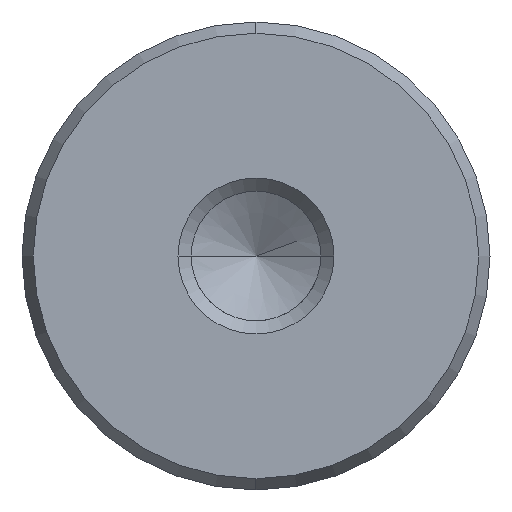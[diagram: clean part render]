
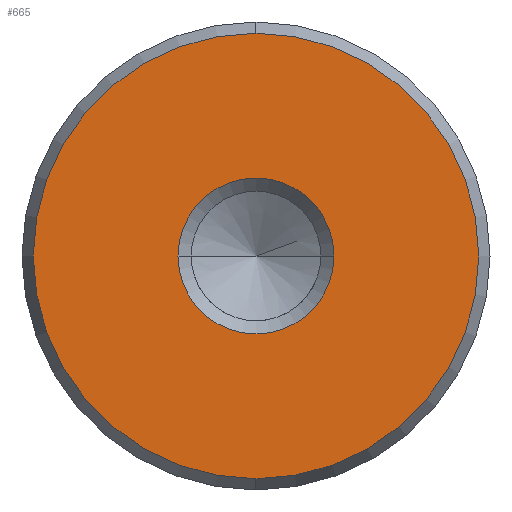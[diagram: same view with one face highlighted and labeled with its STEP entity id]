
A CAD part, left-side view. The second image highlights one B-rep face of the part: STEP entity #665.
In plain terms, the highlighted planar face has unit normal (-1, 0, 0).
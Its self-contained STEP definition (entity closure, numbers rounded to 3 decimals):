
#579=CARTESIAN_POINT('Vertex',(0.,0.,-11.423)) ;
#582=CARTESIAN_POINT('Axis2P3D Location',(0.,0.,0.)) ;
#586=CARTESIAN_POINT('Vertex',(0.,11.423,0.)) ;
#589=CARTESIAN_POINT('Axis2P3D Location',(0.,0.,0.)) ;
#593=CARTESIAN_POINT('Vertex',(0.,0.,11.423)) ;
#615=CARTESIAN_POINT('Axis2P3D Location',(0.,0.,0.)) ;
#619=CARTESIAN_POINT('Vertex',(0.,-11.423,0.)) ;
#622=CARTESIAN_POINT('Axis2P3D Location',(0.,0.,0.)) ;
#636=CARTESIAN_POINT('Axis2P3D Location',(0.,0.,0.)) ;
#647=CARTESIAN_POINT('Axis2P3D Location',(0.,0.,0.)) ;
#651=CARTESIAN_POINT('Vertex',(0.,4.,0.)) ;
#653=CARTESIAN_POINT('Vertex',(0.,-4.,0.)) ;
#656=CARTESIAN_POINT('Axis2P3D Location',(0.,0.,0.)) ;
#583=DIRECTION('Axis2P3D Direction',(1.,0.,-0.)) ;
#590=DIRECTION('Axis2P3D Direction',(1.,0.,-0.)) ;
#616=DIRECTION('Axis2P3D Direction',(1.,0.,-0.)) ;
#623=DIRECTION('Axis2P3D Direction',(1.,0.,-0.)) ;
#637=DIRECTION('Axis2P3D Direction',(1.,0.,-0.)) ;
#638=DIRECTION('Axis2P3D XDirection',(-0.,0.,-1.)) ;
#648=DIRECTION('Axis2P3D Direction',(1.,0.,-0.)) ;
#657=DIRECTION('Axis2P3D Direction',(1.,0.,-0.)) ;
#584=AXIS2_PLACEMENT_3D('Circle Axis2P3D',#582,#583,$) ;
#591=AXIS2_PLACEMENT_3D('Circle Axis2P3D',#589,#590,$) ;
#617=AXIS2_PLACEMENT_3D('Circle Axis2P3D',#615,#616,$) ;
#624=AXIS2_PLACEMENT_3D('Circle Axis2P3D',#622,#623,$) ;
#639=AXIS2_PLACEMENT_3D('Plane Axis2P3D',#636,#637,#638) ;
#649=AXIS2_PLACEMENT_3D('Circle Axis2P3D',#647,#648,$) ;
#658=AXIS2_PLACEMENT_3D('Circle Axis2P3D',#656,#657,$) ;
#642=ORIENTED_EDGE('',*,*,#588,.F.) ;
#643=ORIENTED_EDGE('',*,*,#626,.F.) ;
#644=ORIENTED_EDGE('',*,*,#621,.F.) ;
#645=ORIENTED_EDGE('',*,*,#595,.F.) ;
#662=ORIENTED_EDGE('',*,*,#655,.T.) ;
#663=ORIENTED_EDGE('',*,*,#660,.T.) ;
#664=FACE_BOUND('',#661,.T.) ;
#665=ADVANCED_FACE('720-24x500',(#646,#664),#640,.F.) ;
#585=CIRCLE('generated circle',#584,11.423) ;
#592=CIRCLE('generated circle',#591,11.423) ;
#618=CIRCLE('generated circle',#617,11.423) ;
#625=CIRCLE('generated circle',#624,11.423) ;
#650=CIRCLE('generated circle',#649,4.) ;
#659=CIRCLE('generated circle',#658,4.) ;
#588=EDGE_CURVE('',#580,#587,#585,.T.) ;
#595=EDGE_CURVE('',#587,#594,#592,.T.) ;
#621=EDGE_CURVE('',#594,#620,#618,.T.) ;
#626=EDGE_CURVE('',#620,#580,#625,.T.) ;
#655=EDGE_CURVE('',#652,#654,#650,.T.) ;
#660=EDGE_CURVE('',#654,#652,#659,.T.) ;
#641=EDGE_LOOP('',(#642,#643,#644,#645)) ;
#661=EDGE_LOOP('',(#662,#663)) ;
#646=FACE_OUTER_BOUND('',#641,.T.) ;
#640=PLANE('Plane',#639) ;
#580=VERTEX_POINT('',#579) ;
#587=VERTEX_POINT('',#586) ;
#594=VERTEX_POINT('',#593) ;
#620=VERTEX_POINT('',#619) ;
#652=VERTEX_POINT('',#651) ;
#654=VERTEX_POINT('',#653) ;
